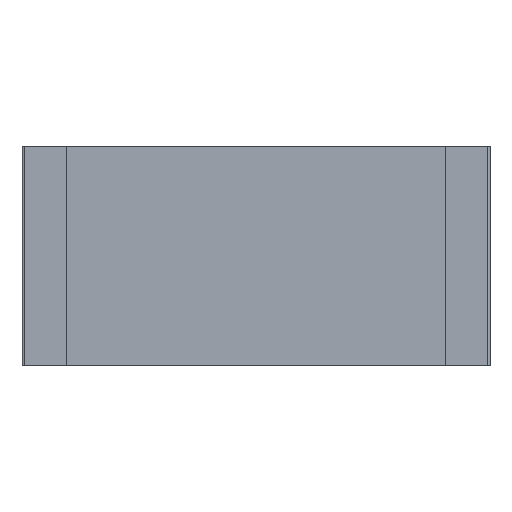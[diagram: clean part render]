
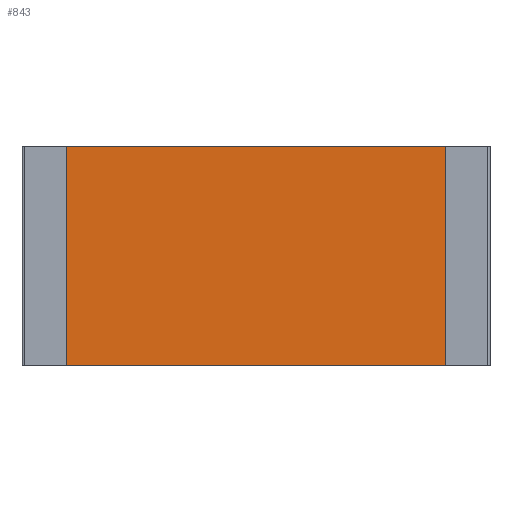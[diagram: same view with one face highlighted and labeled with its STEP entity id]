
A CAD part, front view. The second image highlights one B-rep face of the part: STEP entity #843.
In plain terms, the highlighted planar face has unit normal (0, -1, 0).
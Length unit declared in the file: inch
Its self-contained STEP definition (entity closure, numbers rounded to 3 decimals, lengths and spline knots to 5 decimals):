
#33=FACE_OUTER_BOUND('',#83,.T.);
#83=EDGE_LOOP('',(#566,#567,#568,#569));
#133=LINE('',#1198,#245);
#138=LINE('',#1208,#250);
#139=LINE('',#1211,#251);
#140=LINE('',#1212,#252);
#245=VECTOR('',#966,0.207);
#250=VECTOR('',#975,0.098);
#251=VECTOR('',#978,0.207);
#252=VECTOR('',#979,0.098);
#354=VERTEX_POINT('',#1191);
#357=VERTEX_POINT('',#1196);
#360=VERTEX_POINT('',#1206);
#361=VERTEX_POINT('',#1210);
#437=EDGE_CURVE('',#357,#354,#133,.T.);
#442=EDGE_CURVE('',#357,#360,#138,.T.);
#443=EDGE_CURVE('',#361,#360,#139,.T.);
#444=EDGE_CURVE('',#354,#361,#140,.T.);
#566=ORIENTED_EDGE('',*,*,#442,.T.);
#567=ORIENTED_EDGE('',*,*,#443,.F.);
#568=ORIENTED_EDGE('',*,*,#444,.F.);
#569=ORIENTED_EDGE('',*,*,#437,.F.);
#797=PLANE('',#904);
#843=ADVANCED_FACE('',(#33),#797,.T.);
#904=AXIS2_PLACEMENT_3D('',#1209,#976,#977);
#966=DIRECTION('',(-1.,0.,0.));
#975=DIRECTION('',(0.,0.,1.));
#976=DIRECTION('center_axis',(0.,-1.,0.));
#977=DIRECTION('ref_axis',(1.,0.,0.));
#978=DIRECTION('',(1.,0.,0.));
#979=DIRECTION('',(0.,0.,1.));
#1191=CARTESIAN_POINT('',(-0.1035,0.001,-0.049));
#1196=CARTESIAN_POINT('',(0.1035,0.001,-0.049));
#1198=CARTESIAN_POINT('',(-0.1035,0.001,-0.049));
#1206=CARTESIAN_POINT('',(0.1035,0.001,0.049));
#1208=CARTESIAN_POINT('',(0.1035,0.001,0.));
#1209=CARTESIAN_POINT('Origin',(-0.1035,0.001,0.));
#1210=CARTESIAN_POINT('',(-0.1035,0.001,0.049));
#1211=CARTESIAN_POINT('',(-0.1035,0.001,0.049));
#1212=CARTESIAN_POINT('',(-0.1035,0.001,0.));
